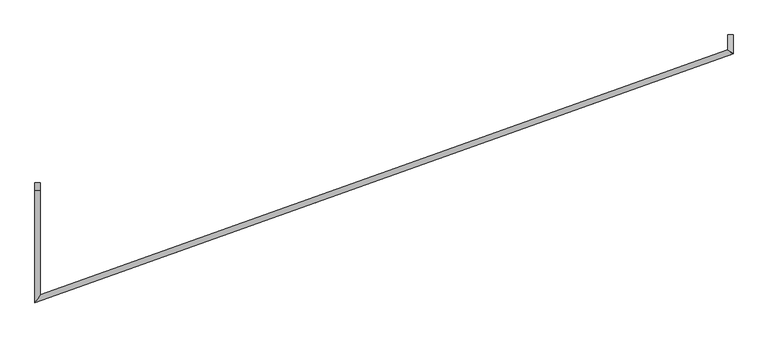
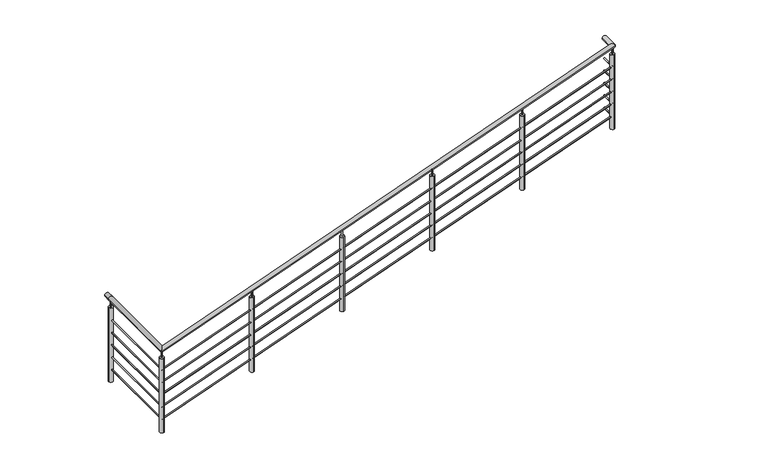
"""IFC4 building model written with IfcOpenShell, lengths in millimetres: railing geometry, Barandal general."""

from ifc_helpers import new_model, si_unit, point, frame, frame_2d, origin, place, context, project, spatial, circle_curve, ellipse_curve, trimmed, segment, composite_curve, outline, extrude, source, transform, mapped, element, save
from ifc_brep_helpers import plane_surface, cylinder_surface, advanced_brep


def railing_a711cc9b(model_context):
    return source(origin(), model_context, "Body", "SolidModel", [
        advanced_brep(
        [(42883.0275078, 24829.0112971, 7000.0), (42832.2275078, 24829.0112971, 7000.0), (42883.0275078, 23850.0761645, 7000.0), (42832.2275078, 23778.0442839, 7000.0), (49344.1059119, 26152.5044571, 7000.0), (49394.9059119, 26116.6780983, 7000.0), (49344.1059119, 26294.0174003, 7000.0), (49394.9059119, 26294.0174003, 7000.0)],
        [
            (0, 1, circle_curve(frame((42857.6275078, 24829.0112971, 7000.0), z_axis=(0.0, 1.0, 0.0), x_axis=(-1.0, 0.0, 0.0)), 25.4)),
            (1, 0, circle_curve(frame((42857.6275078, 24829.0112971, 7000.0), z_axis=(0.0, 1.0, 0.0), x_axis=(-1.0, 0.0, 0.0)), 25.4)),
            (0, 2),
            (2, 3, ellipse_curve(frame((42857.6275078, 23814.0602242, 7000.0), z_axis=(-0.8172138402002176, 0.5763345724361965, 0.0), x_axis=(0.5763345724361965, 0.8172138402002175, 0.0)), 44.071623, 25.4)),
            (3, 1),
            (3, 2, ellipse_curve(frame((42857.6275078, 23814.0602242, 7000.0), z_axis=(-0.8172138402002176, 0.5763345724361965, 0.0), x_axis=(0.5763345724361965, 0.8172138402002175, 0.0)), 44.071623, 25.4)),
            (2, 4),
            (4, 5, ellipse_curve(frame((49369.5059119, 26134.5912777, 7000.0), z_axis=(-0.5763345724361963, -0.8172138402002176, 0.0), x_axis=(-0.8172138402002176, 0.5763345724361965, 0.0)), 31.0812161, 25.4)),
            (5, 3),
            (5, 4, ellipse_curve(frame((49369.5059119, 26134.5912777, 7000.0), z_axis=(-0.5763345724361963, -0.8172138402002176, 0.0), x_axis=(-0.8172138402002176, 0.5763345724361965, 0.0)), 31.0812161, 25.4)),
            (6, 7, circle_curve(frame((49369.5059119, 26294.0174003, 7000.0), z_axis=(0.0, 1.0, 0.0), x_axis=(1.0, 0.0, 0.0)), 25.4)),
            (7, 6, circle_curve(frame((49369.5059119, 26294.0174003, 7000.0), z_axis=(0.0, 1.0, 0.0), x_axis=(1.0, 0.0, 0.0)), 25.4)),
            (4, 6),
            (7, 5),
        ],
        [
            plane_surface(frame((42857.6275078, 24829.0112971, 7000.0), z_axis=(0.0, 1.0, 0.0), x_axis=(0.0, 0.0, -1.0))),
            cylinder_surface(frame((42857.6275078, 24829.0112971, 7000.0), z_axis=(0.0, 1.0, 0.0), x_axis=(-1.0, 0.0, 0.0)), 25.4),
            cylinder_surface(frame((42857.6275078, 23814.0602242, 7000.0), z_axis=(-0.941977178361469, -0.3356769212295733, 0.0), x_axis=(0.3356769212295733, -0.941977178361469, 0.0)), 25.4),
            plane_surface(frame((49369.5059119, 26294.0174003, 7000.0), z_axis=(0.0, 1.0, 0.0), x_axis=(0.0, 0.0, 1.0))),
            cylinder_surface(frame((49369.5059119, 26134.5912777, 7000.0), z_axis=(0.0, -1.0, 0.0), x_axis=(1.0, 0.0, 0.0)), 25.4),
        ],
        [
            (0, [[1, 2]]),
            (1, [[-1, 3, 4, 5]]),
            (1, [[-2, -5, 6, -3]]),
            (2, [[-4, 7, 8, 9]]),
            (2, [[-6, -9, 10, -7]]),
            (3, [[11, 12]]),
            (4, [[-8, 13, -12, 14]]),
            (4, [[-10, -14, -11, -13]]),
        ],
    ),
        advanced_brep(
        [(42863.9775078, 24829.0112971, 6750.0), (42851.2775078, 24829.0112971, 6750.0), (42863.9775078, 23823.0642093, 6750.0), (42851.2775078, 23805.0562391, 6750.0), (49363.1559119, 26139.0695726, 6750.0), (49375.8559119, 26130.1129829, 6750.0), (49363.1559119, 26294.0174003, 6750.0), (49375.8559119, 26294.0174003, 6750.0)],
        [
            (0, 1, circle_curve(frame((42857.6275078, 24829.0112971, 6750.0), z_axis=(0.0, 1.0, 0.0), x_axis=(-1.0, 0.0, 0.0)), 6.35)),
            (1, 0, circle_curve(frame((42857.6275078, 24829.0112971, 6750.0), z_axis=(0.0, 1.0, 0.0), x_axis=(-1.0, 0.0, 0.0)), 6.35)),
            (0, 2),
            (2, 3, ellipse_curve(frame((42857.6275078, 23814.0602242, 6750.0), z_axis=(-0.8172138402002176, 0.5763345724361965, 0.0), x_axis=(0.5763345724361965, 0.8172138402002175, 0.0)), 11.0179058, 6.35)),
            (3, 1),
            (3, 2, ellipse_curve(frame((42857.6275078, 23814.0602242, 6750.0), z_axis=(-0.8172138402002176, 0.5763345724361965, 0.0), x_axis=(0.5763345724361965, 0.8172138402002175, 0.0)), 11.0179058, 6.35)),
            (2, 4),
            (4, 5, ellipse_curve(frame((49369.5059119, 26134.5912777, 6750.0), z_axis=(-0.5763345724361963, -0.8172138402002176, 0.0), x_axis=(-0.8172138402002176, 0.5763345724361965, 0.0)), 7.770304, 6.35)),
            (5, 3),
            (5, 4, ellipse_curve(frame((49369.5059119, 26134.5912777, 6750.0), z_axis=(-0.5763345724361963, -0.8172138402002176, 0.0), x_axis=(-0.8172138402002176, 0.5763345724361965, 0.0)), 7.770304, 6.35)),
            (6, 7, circle_curve(frame((49369.5059119, 26294.0174003, 6750.0), z_axis=(0.0, 1.0, 0.0), x_axis=(1.0, 0.0, 0.0)), 6.35)),
            (7, 6, circle_curve(frame((49369.5059119, 26294.0174003, 6750.0), z_axis=(0.0, 1.0, 0.0), x_axis=(1.0, 0.0, 0.0)), 6.35)),
            (4, 6),
            (7, 5),
        ],
        [
            plane_surface(frame((42857.6275078, 24829.0112971, 6750.0), z_axis=(0.0, 1.0, 0.0), x_axis=(0.0, 0.0, -1.0))),
            cylinder_surface(frame((42857.6275078, 24829.0112971, 6750.0), z_axis=(0.0, 1.0, 0.0), x_axis=(-1.0, 0.0, 0.0)), 6.35),
            cylinder_surface(frame((42857.6275078, 23814.0602242, 6750.0), z_axis=(-0.941977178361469, -0.3356769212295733, 0.0), x_axis=(0.3356769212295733, -0.941977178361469, 0.0)), 6.35),
            plane_surface(frame((49369.5059119, 26294.0174003, 6750.0), z_axis=(0.0, 1.0, 0.0), x_axis=(0.0, 0.0, 1.0))),
            cylinder_surface(frame((49369.5059119, 26134.5912777, 6750.0), z_axis=(0.0, -1.0, 0.0), x_axis=(1.0, 0.0, 0.0)), 6.35),
        ],
        [
            (0, [[1, 2]]),
            (1, [[-1, 3, 4, 5]]),
            (1, [[-2, -5, 6, -3]]),
            (2, [[-4, 7, 8, 9]]),
            (2, [[-6, -9, 10, -7]]),
            (3, [[11, 12]]),
            (4, [[-8, 13, -12, 14]]),
            (4, [[-10, -14, -11, -13]]),
        ],
    ),
        advanced_brep(
        [(42863.9775078, 24829.0112971, 6600.0), (42851.2775078, 24829.0112971, 6600.0), (42863.9775078, 23823.0642093, 6600.0), (42851.2775078, 23805.0562391, 6600.0), (49363.1559119, 26139.0695726, 6600.0), (49375.8559119, 26130.1129829, 6600.0), (49363.1559119, 26294.0174003, 6600.0), (49375.8559119, 26294.0174003, 6600.0)],
        [
            (0, 1, circle_curve(frame((42857.6275078, 24829.0112971, 6600.0), z_axis=(0.0, 1.0, 0.0), x_axis=(-1.0, 0.0, 0.0)), 6.35)),
            (1, 0, circle_curve(frame((42857.6275078, 24829.0112971, 6600.0), z_axis=(0.0, 1.0, 0.0), x_axis=(-1.0, 0.0, 0.0)), 6.35)),
            (0, 2),
            (2, 3, ellipse_curve(frame((42857.6275078, 23814.0602242, 6600.0), z_axis=(-0.8172138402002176, 0.5763345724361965, 0.0), x_axis=(0.5763345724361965, 0.8172138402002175, 0.0)), 11.0179058, 6.35)),
            (3, 1),
            (3, 2, ellipse_curve(frame((42857.6275078, 23814.0602242, 6600.0), z_axis=(-0.8172138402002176, 0.5763345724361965, 0.0), x_axis=(0.5763345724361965, 0.8172138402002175, 0.0)), 11.0179058, 6.35)),
            (2, 4),
            (4, 5, ellipse_curve(frame((49369.5059119, 26134.5912777, 6600.0), z_axis=(-0.5763345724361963, -0.8172138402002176, 0.0), x_axis=(-0.8172138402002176, 0.5763345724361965, 0.0)), 7.770304, 6.35)),
            (5, 3),
            (5, 4, ellipse_curve(frame((49369.5059119, 26134.5912777, 6600.0), z_axis=(-0.5763345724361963, -0.8172138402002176, 0.0), x_axis=(-0.8172138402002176, 0.5763345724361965, 0.0)), 7.770304, 6.35)),
            (6, 7, circle_curve(frame((49369.5059119, 26294.0174003, 6600.0), z_axis=(0.0, 1.0, 0.0), x_axis=(1.0, 0.0, 0.0)), 6.35)),
            (7, 6, circle_curve(frame((49369.5059119, 26294.0174003, 6600.0), z_axis=(0.0, 1.0, 0.0), x_axis=(1.0, 0.0, 0.0)), 6.35)),
            (4, 6),
            (7, 5),
        ],
        [
            plane_surface(frame((42857.6275078, 24829.0112971, 6600.0), z_axis=(0.0, 1.0, 0.0), x_axis=(0.0, 0.0, -1.0))),
            cylinder_surface(frame((42857.6275078, 24829.0112971, 6600.0), z_axis=(0.0, 1.0, 0.0), x_axis=(-1.0, 0.0, 0.0)), 6.35),
            cylinder_surface(frame((42857.6275078, 23814.0602242, 6600.0), z_axis=(-0.941977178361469, -0.3356769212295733, 0.0), x_axis=(0.3356769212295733, -0.941977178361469, 0.0)), 6.35),
            plane_surface(frame((49369.5059119, 26294.0174003, 6600.0), z_axis=(0.0, 1.0, 0.0), x_axis=(0.0, 0.0, 1.0))),
            cylinder_surface(frame((49369.5059119, 26134.5912777, 6600.0), z_axis=(0.0, -1.0, 0.0), x_axis=(1.0, 0.0, 0.0)), 6.35),
        ],
        [
            (0, [[1, 2]]),
            (1, [[-1, 3, 4, 5]]),
            (1, [[-2, -5, 6, -3]]),
            (2, [[-4, 7, 8, 9]]),
            (2, [[-6, -9, 10, -7]]),
            (3, [[11, 12]]),
            (4, [[-8, 13, -12, 14]]),
            (4, [[-10, -14, -11, -13]]),
        ],
    ),
        advanced_brep(
        [(42863.9775078, 24829.0112971, 6450.0), (42851.2775078, 24829.0112971, 6450.0), (42863.9775078, 23823.0642093, 6450.0), (42851.2775078, 23805.0562391, 6450.0), (49363.1559119, 26139.0695726, 6450.0), (49375.8559119, 26130.1129829, 6450.0), (49363.1559119, 26294.0174003, 6450.0), (49375.8559119, 26294.0174003, 6450.0)],
        [
            (0, 1, circle_curve(frame((42857.6275078, 24829.0112971, 6450.0), z_axis=(0.0, 1.0, 0.0), x_axis=(-1.0, 0.0, 0.0)), 6.35)),
            (1, 0, circle_curve(frame((42857.6275078, 24829.0112971, 6450.0), z_axis=(0.0, 1.0, 0.0), x_axis=(-1.0, 0.0, 0.0)), 6.35)),
            (0, 2),
            (2, 3, ellipse_curve(frame((42857.6275078, 23814.0602242, 6450.0), z_axis=(-0.8172138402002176, 0.5763345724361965, 0.0), x_axis=(0.5763345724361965, 0.8172138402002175, 0.0)), 11.0179058, 6.35)),
            (3, 1),
            (3, 2, ellipse_curve(frame((42857.6275078, 23814.0602242, 6450.0), z_axis=(-0.8172138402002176, 0.5763345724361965, 0.0), x_axis=(0.5763345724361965, 0.8172138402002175, 0.0)), 11.0179058, 6.35)),
            (2, 4),
            (4, 5, ellipse_curve(frame((49369.5059119, 26134.5912777, 6450.0), z_axis=(-0.5763345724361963, -0.8172138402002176, 0.0), x_axis=(-0.8172138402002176, 0.5763345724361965, 0.0)), 7.770304, 6.35)),
            (5, 3),
            (5, 4, ellipse_curve(frame((49369.5059119, 26134.5912777, 6450.0), z_axis=(-0.5763345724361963, -0.8172138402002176, 0.0), x_axis=(-0.8172138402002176, 0.5763345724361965, 0.0)), 7.770304, 6.35)),
            (6, 7, circle_curve(frame((49369.5059119, 26294.0174003, 6450.0), z_axis=(0.0, 1.0, 0.0), x_axis=(1.0, 0.0, 0.0)), 6.35)),
            (7, 6, circle_curve(frame((49369.5059119, 26294.0174003, 6450.0), z_axis=(0.0, 1.0, 0.0), x_axis=(1.0, 0.0, 0.0)), 6.35)),
            (4, 6),
            (7, 5),
        ],
        [
            plane_surface(frame((42857.6275078, 24829.0112971, 6450.0), z_axis=(0.0, 1.0, 0.0), x_axis=(0.0, 0.0, -1.0))),
            cylinder_surface(frame((42857.6275078, 24829.0112971, 6450.0), z_axis=(0.0, 1.0, 0.0), x_axis=(-1.0, 0.0, 0.0)), 6.35),
            cylinder_surface(frame((42857.6275078, 23814.0602242, 6450.0), z_axis=(-0.941977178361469, -0.3356769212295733, 0.0), x_axis=(0.3356769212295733, -0.941977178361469, 0.0)), 6.35),
            plane_surface(frame((49369.5059119, 26294.0174003, 6450.0), z_axis=(0.0, 1.0, 0.0), x_axis=(0.0, 0.0, 1.0))),
            cylinder_surface(frame((49369.5059119, 26134.5912777, 6450.0), z_axis=(0.0, -1.0, 0.0), x_axis=(1.0, 0.0, 0.0)), 6.35),
        ],
        [
            (0, [[1, 2]]),
            (1, [[-1, 3, 4, 5]]),
            (1, [[-2, -5, 6, -3]]),
            (2, [[-4, 7, 8, 9]]),
            (2, [[-6, -9, 10, -7]]),
            (3, [[11, 12]]),
            (4, [[-8, 13, -12, 14]]),
            (4, [[-10, -14, -11, -13]]),
        ],
    ),
        advanced_brep(
        [(42863.9775078, 24829.0112971, 6300.0), (42851.2775078, 24829.0112971, 6300.0), (42863.9775078, 23823.0642093, 6300.0), (42851.2775078, 23805.0562391, 6300.0), (49363.1559119, 26139.0695726, 6300.0), (49375.8559119, 26130.1129829, 6300.0), (49363.1559119, 26294.0174003, 6300.0), (49375.8559119, 26294.0174003, 6300.0)],
        [
            (0, 1, circle_curve(frame((42857.6275078, 24829.0112971, 6300.0), z_axis=(0.0, 1.0, 0.0), x_axis=(-1.0, 0.0, 0.0)), 6.35)),
            (1, 0, circle_curve(frame((42857.6275078, 24829.0112971, 6300.0), z_axis=(0.0, 1.0, 0.0), x_axis=(-1.0, 0.0, 0.0)), 6.35)),
            (0, 2),
            (2, 3, ellipse_curve(frame((42857.6275078, 23814.0602242, 6300.0), z_axis=(-0.8172138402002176, 0.5763345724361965, 0.0), x_axis=(0.5763345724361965, 0.8172138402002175, 0.0)), 11.0179058, 6.35)),
            (3, 1),
            (3, 2, ellipse_curve(frame((42857.6275078, 23814.0602242, 6300.0), z_axis=(-0.8172138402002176, 0.5763345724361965, 0.0), x_axis=(0.5763345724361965, 0.8172138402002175, 0.0)), 11.0179058, 6.35)),
            (2, 4),
            (4, 5, ellipse_curve(frame((49369.5059119, 26134.5912777, 6300.0), z_axis=(-0.5763345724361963, -0.8172138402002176, 0.0), x_axis=(-0.8172138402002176, 0.5763345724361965, 0.0)), 7.770304, 6.35)),
            (5, 3),
            (5, 4, ellipse_curve(frame((49369.5059119, 26134.5912777, 6300.0), z_axis=(-0.5763345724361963, -0.8172138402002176, 0.0), x_axis=(-0.8172138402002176, 0.5763345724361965, 0.0)), 7.770304, 6.35)),
            (6, 7, circle_curve(frame((49369.5059119, 26294.0174003, 6300.0), z_axis=(0.0, 1.0, 0.0), x_axis=(1.0, 0.0, 0.0)), 6.35)),
            (7, 6, circle_curve(frame((49369.5059119, 26294.0174003, 6300.0), z_axis=(0.0, 1.0, 0.0), x_axis=(1.0, 0.0, 0.0)), 6.35)),
            (4, 6),
            (7, 5),
        ],
        [
            plane_surface(frame((42857.6275078, 24829.0112971, 6300.0), z_axis=(0.0, 1.0, 0.0), x_axis=(0.0, 0.0, -1.0))),
            cylinder_surface(frame((42857.6275078, 24829.0112971, 6300.0), z_axis=(0.0, 1.0, 0.0), x_axis=(-1.0, 0.0, 0.0)), 6.35),
            cylinder_surface(frame((42857.6275078, 23814.0602242, 6300.0), z_axis=(-0.941977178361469, -0.3356769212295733, 0.0), x_axis=(0.3356769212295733, -0.941977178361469, 0.0)), 6.35),
            plane_surface(frame((49369.5059119, 26294.0174003, 6300.0), z_axis=(0.0, 1.0, 0.0), x_axis=(0.0, 0.0, 1.0))),
            cylinder_surface(frame((49369.5059119, 26134.5912777, 6300.0), z_axis=(0.0, -1.0, 0.0), x_axis=(1.0, 0.0, 0.0)), 6.35),
        ],
        [
            (0, [[1, 2]]),
            (1, [[-1, 3, 4, 5]]),
            (1, [[-2, -5, 6, -3]]),
            (2, [[-4, 7, 8, 9]]),
            (2, [[-6, -9, 10, -7]]),
            (3, [[11, 12]]),
            (4, [[-8, 13, -12, 14]]),
            (4, [[-10, -14, -11, -13]]),
        ],
    ),
        advanced_brep(
        [(42863.9775078, 24829.0112971, 6150.0), (42851.2775078, 24829.0112971, 6150.0), (42863.9775078, 23823.0642093, 6150.0), (42851.2775078, 23805.0562391, 6150.0), (49363.1559119, 26139.0695726, 6150.0), (49375.8559119, 26130.1129829, 6150.0), (49363.1559119, 26294.0174003, 6150.0), (49375.8559119, 26294.0174003, 6150.0)],
        [
            (0, 1, circle_curve(frame((42857.6275078, 24829.0112971, 6150.0), z_axis=(0.0, 1.0, 0.0), x_axis=(-1.0, 0.0, 0.0)), 6.35)),
            (1, 0, circle_curve(frame((42857.6275078, 24829.0112971, 6150.0), z_axis=(0.0, 1.0, 0.0), x_axis=(-1.0, 0.0, 0.0)), 6.35)),
            (0, 2),
            (2, 3, ellipse_curve(frame((42857.6275078, 23814.0602242, 6150.0), z_axis=(-0.8172138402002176, 0.5763345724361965, 0.0), x_axis=(0.5763345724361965, 0.8172138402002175, 0.0)), 11.0179058, 6.35)),
            (3, 1),
            (3, 2, ellipse_curve(frame((42857.6275078, 23814.0602242, 6150.0), z_axis=(-0.8172138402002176, 0.5763345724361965, 0.0), x_axis=(0.5763345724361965, 0.8172138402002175, 0.0)), 11.0179058, 6.35)),
            (2, 4),
            (4, 5, ellipse_curve(frame((49369.5059119, 26134.5912777, 6150.0), z_axis=(-0.5763345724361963, -0.8172138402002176, 0.0), x_axis=(-0.8172138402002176, 0.5763345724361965, 0.0)), 7.770304, 6.35)),
            (5, 3),
            (5, 4, ellipse_curve(frame((49369.5059119, 26134.5912777, 6150.0), z_axis=(-0.5763345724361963, -0.8172138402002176, 0.0), x_axis=(-0.8172138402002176, 0.5763345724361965, 0.0)), 7.770304, 6.35)),
            (6, 7, circle_curve(frame((49369.5059119, 26294.0174003, 6150.0), z_axis=(0.0, 1.0, 0.0), x_axis=(1.0, 0.0, 0.0)), 6.35)),
            (7, 6, circle_curve(frame((49369.5059119, 26294.0174003, 6150.0), z_axis=(0.0, 1.0, 0.0), x_axis=(1.0, 0.0, 0.0)), 6.35)),
            (4, 6),
            (7, 5),
        ],
        [
            plane_surface(frame((42857.6275078, 24829.0112971, 6150.0), z_axis=(0.0, 1.0, 0.0), x_axis=(0.0, 0.0, -1.0))),
            cylinder_surface(frame((42857.6275078, 24829.0112971, 6150.0), z_axis=(0.0, 1.0, 0.0), x_axis=(-1.0, 0.0, 0.0)), 6.35),
            cylinder_surface(frame((42857.6275078, 23814.0602242, 6150.0), z_axis=(-0.941977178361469, -0.3356769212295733, 0.0), x_axis=(0.3356769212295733, -0.941977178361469, 0.0)), 6.35),
            plane_surface(frame((49369.5059119, 26294.0174003, 6150.0), z_axis=(0.0, 1.0, 0.0), x_axis=(0.0, 0.0, 1.0))),
            cylinder_surface(frame((49369.5059119, 26134.5912777, 6150.0), z_axis=(0.0, -1.0, 0.0), x_axis=(1.0, 0.0, 0.0)), 6.35),
        ],
        [
            (0, [[1, 2]]),
            (1, [[-1, 3, 4, 5]]),
            (1, [[-2, -5, 6, -3]]),
            (2, [[-4, 7, 8, 9]]),
            (2, [[-6, -9, 10, -7]]),
            (3, [[11, 12]]),
            (4, [[-8, 13, -12, 14]]),
            (4, [[-10, -14, -11, -13]]),
        ],
    ),
        extrude(outline(composite_curve([segment(trimmed(circle_curve(frame_2d((49369.5059119, 26134.5912777)), 6.35), [point((49371.6374604, 26128.6097226))], [point((49367.3743635, 26140.5728328))], False, "CARTESIAN"), True, "CONTINUOUS"), segment(trimmed(circle_curve(frame_2d((49369.5059119, 26134.5912777)), 6.35), [point((49367.3743635, 26140.5728328))], [point((49371.6374604, 26128.6097226))], False, "CARTESIAN"), True, "CONTINUOUS")], self_intersect=False)), frame((0.0, 0.0, 6899.6), z_axis=(0.0, 0.0, 1.0), x_axis=(1.0, 0.0, 0.0)), (0.0, 0.0, 1.0), 75.0),
        extrude(outline(composite_curve([segment(trimmed(circle_curve(frame_2d((49369.5059119, 26134.5912777)), 25.4), [point((49378.0321057, 26110.6650574))], [point((49360.9797181, 26158.517498))], False, "CARTESIAN"), True, "CONTINUOUS"), segment(trimmed(circle_curve(frame_2d((49369.5059119, 26134.5912777)), 25.4), [point((49360.9797181, 26158.517498))], [point((49378.0321057, 26110.6650574))], False, "CARTESIAN"), True, "CONTINUOUS")], self_intersect=False)), frame((0.0, 0.0, 6000.0), z_axis=(0.0, 0.0, 1.0), x_axis=(1.0, 0.0, 0.0)), (0.0, 0.0, 1.0), 899.6),
        extrude(outline(composite_curve([segment(trimmed(circle_curve(frame_2d((48067.1302311, 25670.485067)), 6.35), [point((48069.2617796, 25664.5035119))], [point((48064.9986827, 25676.4666221))], False, "CARTESIAN"), True, "CONTINUOUS"), segment(trimmed(circle_curve(frame_2d((48067.1302311, 25670.485067)), 6.35), [point((48064.9986827, 25676.4666221))], [point((48069.2617796, 25664.5035119))], False, "CARTESIAN"), True, "CONTINUOUS")], self_intersect=False)), frame((0.0, 0.0, 6899.6), z_axis=(0.0, 0.0, 1.0), x_axis=(1.0, 0.0, 0.0)), (0.0, 0.0, 1.0), 75.0),
        extrude(outline(composite_curve([segment(trimmed(circle_curve(frame_2d((48067.1302311, 25670.485067)), 25.4), [point((48075.6564249, 25646.5588467))], [point((48058.6040373, 25694.4112873))], False, "CARTESIAN"), True, "CONTINUOUS"), segment(trimmed(circle_curve(frame_2d((48067.1302311, 25670.485067)), 25.4), [point((48058.6040373, 25694.4112873))], [point((48075.6564249, 25646.5588467))], False, "CARTESIAN"), True, "CONTINUOUS")], self_intersect=False)), frame((0.0, 0.0, 6000.0), z_axis=(0.0, 0.0, 1.0), x_axis=(1.0, 0.0, 0.0)), (0.0, 0.0, 1.0), 899.6),
        extrude(outline(composite_curve([segment(trimmed(circle_curve(frame_2d((46764.7545503, 25206.3788563)), 6.35), [point((46766.8860987, 25200.3973012))], [point((46762.6230018, 25212.3604114))], False, "CARTESIAN"), True, "CONTINUOUS"), segment(trimmed(circle_curve(frame_2d((46764.7545503, 25206.3788563)), 6.35), [point((46762.6230018, 25212.3604114))], [point((46766.8860987, 25200.3973012))], False, "CARTESIAN"), True, "CONTINUOUS")], self_intersect=False)), frame((0.0, 0.0, 6899.6), z_axis=(0.0, 0.0, 1.0), x_axis=(1.0, 0.0, 0.0)), (0.0, 0.0, 1.0), 75.0),
        extrude(outline(composite_curve([segment(trimmed(circle_curve(frame_2d((46764.7545503, 25206.3788563)), 25.4), [point((46773.2807441, 25182.452636))], [point((46756.2283565, 25230.3050766))], False, "CARTESIAN"), True, "CONTINUOUS"), segment(trimmed(circle_curve(frame_2d((46764.7545503, 25206.3788563)), 25.4), [point((46756.2283565, 25230.3050766))], [point((46773.2807441, 25182.452636))], False, "CARTESIAN"), True, "CONTINUOUS")], self_intersect=False)), frame((0.0, 0.0, 6000.0), z_axis=(0.0, 0.0, 1.0), x_axis=(1.0, 0.0, 0.0)), (0.0, 0.0, 1.0), 899.6),
        extrude(outline(composite_curve([segment(trimmed(circle_curve(frame_2d((45462.3788695, 24742.2726456)), 6.35), [point((45464.5104179, 24736.2910905))], [point((45460.247321, 24748.2542007))], False, "CARTESIAN"), True, "CONTINUOUS"), segment(trimmed(circle_curve(frame_2d((45462.3788695, 24742.2726456)), 6.35), [point((45460.247321, 24748.2542007))], [point((45464.5104179, 24736.2910905))], False, "CARTESIAN"), True, "CONTINUOUS")], self_intersect=False)), frame((0.0, 0.0, 6899.6), z_axis=(0.0, 0.0, 1.0), x_axis=(1.0, 0.0, 0.0)), (0.0, 0.0, 1.0), 75.0),
        extrude(outline(composite_curve([segment(trimmed(circle_curve(frame_2d((45462.3788695, 24742.2726456)), 25.4), [point((45470.9050633, 24718.3464253))], [point((45453.8526757, 24766.1988659))], False, "CARTESIAN"), True, "CONTINUOUS"), segment(trimmed(circle_curve(frame_2d((45462.3788695, 24742.2726456)), 25.4), [point((45453.8526757, 24766.1988659))], [point((45470.9050633, 24718.3464253))], False, "CARTESIAN"), True, "CONTINUOUS")], self_intersect=False)), frame((0.0, 0.0, 6000.0), z_axis=(0.0, 0.0, 1.0), x_axis=(1.0, 0.0, 0.0)), (0.0, 0.0, 1.0), 899.6),
        extrude(outline(composite_curve([segment(trimmed(circle_curve(frame_2d((44160.0031887, 24278.1664349)), 6.35), [point((44162.1347371, 24272.1848798))], [point((44157.8716402, 24284.14799))], False, "CARTESIAN"), True, "CONTINUOUS"), segment(trimmed(circle_curve(frame_2d((44160.0031887, 24278.1664349)), 6.35), [point((44157.8716402, 24284.14799))], [point((44162.1347371, 24272.1848798))], False, "CARTESIAN"), True, "CONTINUOUS")], self_intersect=False)), frame((0.0, 0.0, 6899.6), z_axis=(0.0, 0.0, 1.0), x_axis=(1.0, 0.0, 0.0)), (0.0, 0.0, 1.0), 75.0),
        extrude(outline(composite_curve([segment(trimmed(circle_curve(frame_2d((44160.0031887, 24278.1664349)), 25.4), [point((44168.5293825, 24254.2402146))], [point((44151.4769949, 24302.0926552))], False, "CARTESIAN"), True, "CONTINUOUS"), segment(trimmed(circle_curve(frame_2d((44160.0031887, 24278.1664349)), 25.4), [point((44151.4769949, 24302.0926552))], [point((44168.5293825, 24254.2402146))], False, "CARTESIAN"), True, "CONTINUOUS")], self_intersect=False)), frame((0.0, 0.0, 6000.0), z_axis=(0.0, 0.0, 1.0), x_axis=(1.0, 0.0, 0.0)), (0.0, 0.0, 1.0), 899.6),
        extrude(outline(composite_curve([segment(trimmed(circle_curve(frame_2d((42857.6275078, 23814.0602242)), 6.35), [point((42859.7590563, 23808.0786691))], [point((42855.4959594, 23820.0417793))], False, "CARTESIAN"), True, "CONTINUOUS"), segment(trimmed(circle_curve(frame_2d((42857.6275078, 23814.0602242)), 6.35), [point((42855.4959594, 23820.0417793))], [point((42859.7590563, 23808.0786691))], False, "CARTESIAN"), True, "CONTINUOUS")], self_intersect=False)), frame((0.0, 0.0, 6899.6), z_axis=(0.0, 0.0, 1.0), x_axis=(1.0, 0.0, 0.0)), (0.0, 0.0, 1.0), 75.0),
        extrude(outline(composite_curve([segment(trimmed(circle_curve(frame_2d((42857.6275078, 23814.0602242)), 25.4), [point((42866.1537016, 23790.1340039))], [point((42849.101314, 23837.9864445))], False, "CARTESIAN"), True, "CONTINUOUS"), segment(trimmed(circle_curve(frame_2d((42857.6275078, 23814.0602242)), 25.4), [point((42849.101314, 23837.9864445))], [point((42866.1537016, 23790.1340039))], False, "CARTESIAN"), True, "CONTINUOUS")], self_intersect=False)), frame((0.0, 0.0, 6000.0), z_axis=(0.0, 0.0, 1.0), x_axis=(1.0, 0.0, 0.0)), (0.0, 0.0, 1.0), 899.6),
        extrude(outline(composite_curve([segment(trimmed(circle_curve(frame_2d((42857.6275078, 23814.0602242)), 6.35), [point((42851.2775078, 23814.0602242))], [point((42863.9775078, 23814.0602242))], False, "CARTESIAN"), True, "CONTINUOUS"), segment(trimmed(circle_curve(frame_2d((42857.6275078, 23814.0602242)), 6.35), [point((42863.9775078, 23814.0602242))], [point((42851.2775078, 23814.0602242))], False, "CARTESIAN"), True, "CONTINUOUS")], self_intersect=False)), frame((0.0, 0.0, 6899.6), z_axis=(0.0, 0.0, 1.0), x_axis=(1.0, 0.0, 0.0)), (0.0, 0.0, 1.0), 75.0),
        extrude(outline(composite_curve([segment(trimmed(circle_curve(frame_2d((42857.6275078, 23814.0602242)), 25.4), [point((42832.2275078, 23814.0602242))], [point((42883.0275078, 23814.0602242))], False, "CARTESIAN"), True, "CONTINUOUS"), segment(trimmed(circle_curve(frame_2d((42857.6275078, 23814.0602242)), 25.4), [point((42883.0275078, 23814.0602242))], [point((42832.2275078, 23814.0602242))], False, "CARTESIAN"), True, "CONTINUOUS")], self_intersect=False)), frame((0.0, 0.0, 6000.0), z_axis=(0.0, 0.0, 1.0), x_axis=(1.0, 0.0, 0.0)), (0.0, 0.0, 1.0), 899.6),
        extrude(outline(composite_curve([segment(trimmed(circle_curve(frame_2d((7000.0, 42857.6275078)), 25.4), [point((7000.0, 42832.2275078))], [point((7000.0, 42883.0275078))], False, "CARTESIAN"), True, "CONTINUOUS"), segment(trimmed(circle_curve(frame_2d((7000.0, 42857.6275078)), 25.4), [point((7000.0, 42883.0275078))], [point((7000.0, 42832.2275078))], False, "CARTESIAN"), True, "CONTINUOUS")], self_intersect=False)), frame((0.0, 24829.0112971, 0.0), z_axis=(0.0, 1.0, 0.0), x_axis=(0.0, 0.0, 1.0)), (0.0, 0.0, 1.0), 75.0),
        extrude(outline(composite_curve([segment(trimmed(circle_curve(frame_2d((42857.6275078, 24829.0112971)), 6.35), [point((42851.2775078, 24829.0112971))], [point((42863.9775078, 24829.0112971))], False, "CARTESIAN"), True, "CONTINUOUS"), segment(trimmed(circle_curve(frame_2d((42857.6275078, 24829.0112971)), 6.35), [point((42863.9775078, 24829.0112971))], [point((42851.2775078, 24829.0112971))], False, "CARTESIAN"), True, "CONTINUOUS")], self_intersect=False)), frame((0.0, 0.0, 6899.6), z_axis=(0.0, 0.0, 1.0), x_axis=(1.0, 0.0, 0.0)), (0.0, 0.0, 1.0), 75.0),
        extrude(outline(composite_curve([segment(trimmed(circle_curve(frame_2d((42857.6275078, 24829.0112971)), 25.4), [point((42832.2275078, 24829.0112971))], [point((42883.0275078, 24829.0112971))], False, "CARTESIAN"), True, "CONTINUOUS"), segment(trimmed(circle_curve(frame_2d((42857.6275078, 24829.0112971)), 25.4), [point((42883.0275078, 24829.0112971))], [point((42832.2275078, 24829.0112971))], False, "CARTESIAN"), True, "CONTINUOUS")], self_intersect=False)), frame((0.0, 0.0, 6000.0), z_axis=(0.0, 0.0, 1.0), x_axis=(1.0, 0.0, 0.0)), (0.0, 0.0, 1.0), 899.6),
    ])


if __name__ == "__main__":
    model = new_model("IFC4")
    model_context = context("Model", 3, world=origin())
    ifc_project = project(units=[si_unit("LENGTHUNIT", "METRE", prefix="MILLI")], contexts=[model_context])
    site = spatial("IfcSite", under=ifc_project)
    building = spatial("IfcBuilding", under=site)
    placement = place(None, origin())
    railing_shape = railing_a711cc9b(model_context)
    element("IfcRailing", 1, ObjectType="Barandal general", at=placement, inside=building, context=model_context, shape_type="MappedRepresentation", body=[
        mapped(railing_shape, transform((0.0, 0.0, 0.0), x_axis=(1.0, 0.0, 0.0), y_axis=(0.0, 1.0, 0.0), z_axis=(0.0, 0.0, 1.0))),
    ])
    save(model, "model.ifc")
